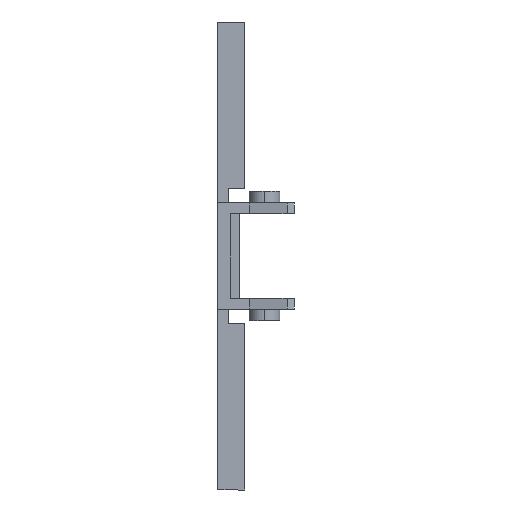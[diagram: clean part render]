
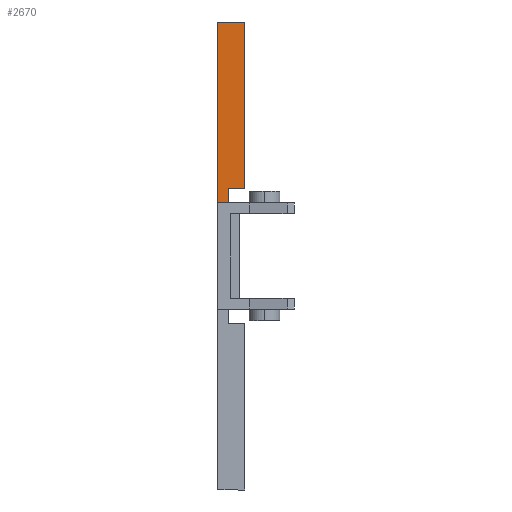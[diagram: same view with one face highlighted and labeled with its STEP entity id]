
A CAD part, front view. The second image highlights one B-rep face of the part: STEP entity #2670.
In plain terms, the highlighted planar face has unit normal (0, -1, 0).
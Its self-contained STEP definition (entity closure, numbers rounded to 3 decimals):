
#115 = EDGE_CURVE ( 'NONE', #1959, #1980, #1217, .T. ) ;
#196 = AXIS2_PLACEMENT_3D ( 'NONE', #406, #393, #394 ) ;
#237 = EDGE_CURVE ( 'NONE', #1980, #1981, #1175, .T. ) ;
#393 = DIRECTION ( 'NONE',  ( 0., 1., 0. ) ) ;
#394 = DIRECTION ( 'NONE',  ( 0., 0., 1. ) ) ;
#405 = PLANE ( 'NONE',  #196 ) ;
#406 = CARTESIAN_POINT ( 'NONE',  ( 0., -9., 5. ) ) ;
#478 = DIRECTION ( 'NONE',  ( -1., 0., 0. ) ) ;
#479 = CARTESIAN_POINT ( 'NONE',  ( 0., -9., 5.9 ) ) ;
#846 = FACE_OUTER_BOUND ( 'NONE', #1777, .T. ) ;
#902 = VECTOR ( 'NONE', #478, 1000. ) ;
#903 = LINE ( 'NONE', #479, #902 ) ;
#1037 = VECTOR ( 'NONE', #2476, 1000. ) ;
#1040 = VECTOR ( 'NONE', #2472, 1000. ) ;
#1041 = LINE ( 'NONE', #2471, #1040 ) ;
#1044 = LINE ( 'NONE', #2473, #1037 ) ;
#1081 = VECTOR ( 'NONE', #2425, 1000. ) ;
#1082 = LINE ( 'NONE', #2424, #1081 ) ;
#1167 = VECTOR ( 'NONE', #2158, 1000. ) ;
#1175 = LINE ( 'NONE', #2157, #1167 ) ;
#1210 = VECTOR ( 'NONE', #2139, 1000. ) ;
#1217 = LINE ( 'NONE', #2110, #1210 ) ;
#1738 = ORIENTED_EDGE ( 'NONE', *, *, #2560, .F. ) ;
#1739 = ORIENTED_EDGE ( 'NONE', *, *, #2562, .F. ) ;
#1740 = ORIENTED_EDGE ( 'NONE', *, *, #115, .F. ) ;
#1742 = ORIENTED_EDGE ( 'NONE', *, *, #237, .F. ) ;
#1777 = EDGE_LOOP ( 'NONE', ( #1798, #1799, #1742, #1740, #1739, #1738 ) ) ;
#1798 = ORIENTED_EDGE ( 'NONE', *, *, #2537, .F. ) ;
#1799 = ORIENTED_EDGE ( 'NONE', *, *, #2635, .F. ) ;
#1958 = VERTEX_POINT ( 'NONE', #2355 ) ;
#1959 = VERTEX_POINT ( 'NONE', #2356 ) ;
#1977 = VERTEX_POINT ( 'NONE', #2334 ) ;
#1978 = VERTEX_POINT ( 'NONE', #2335 ) ;
#1980 = VERTEX_POINT ( 'NONE', #2327 ) ;
#1981 = VERTEX_POINT ( 'NONE', #2328 ) ;
#2110 = CARTESIAN_POINT ( 'NONE',  ( 3., -9., 7.5 ) ) ;
#2139 = DIRECTION ( 'NONE',  ( -1., 0., 0. ) ) ;
#2157 = CARTESIAN_POINT ( 'NONE',  ( 1.2, -9., 7.5 ) ) ;
#2158 = DIRECTION ( 'NONE',  ( 0., 0., -1. ) ) ;
#2327 = CARTESIAN_POINT ( 'NONE',  ( 1.2, -9., 7.5 ) ) ;
#2328 = CARTESIAN_POINT ( 'NONE',  ( 1.2, -9., 5.9 ) ) ;
#2334 = CARTESIAN_POINT ( 'NONE',  ( 0., -9., 26. ) ) ;
#2335 = CARTESIAN_POINT ( 'NONE',  ( 0., -9., 5.9 ) ) ;
#2355 = CARTESIAN_POINT ( 'NONE',  ( 3., -9., 26. ) ) ;
#2356 = CARTESIAN_POINT ( 'NONE',  ( 3., -9., 7.5 ) ) ;
#2424 = CARTESIAN_POINT ( 'NONE',  ( 0., -9., 5. ) ) ;
#2425 = DIRECTION ( 'NONE',  ( 0., 0., 1. ) ) ;
#2471 = CARTESIAN_POINT ( 'NONE',  ( 0., -9., 26. ) ) ;
#2472 = DIRECTION ( 'NONE',  ( 1., 0., 0. ) ) ;
#2473 = CARTESIAN_POINT ( 'NONE',  ( 3., -9., 26. ) ) ;
#2476 = DIRECTION ( 'NONE',  ( 0., 0., -1. ) ) ;
#2537 = EDGE_CURVE ( 'NONE', #1978, #1977, #1082, .T. ) ;
#2560 = EDGE_CURVE ( 'NONE', #1977, #1958, #1041, .T. ) ;
#2562 = EDGE_CURVE ( 'NONE', #1958, #1959, #1044, .T. ) ;
#2635 = EDGE_CURVE ( 'NONE', #1981, #1978, #903, .T. ) ;
#2670 = ADVANCED_FACE ( 'NONE', ( #846 ), #405, .F. ) ;
